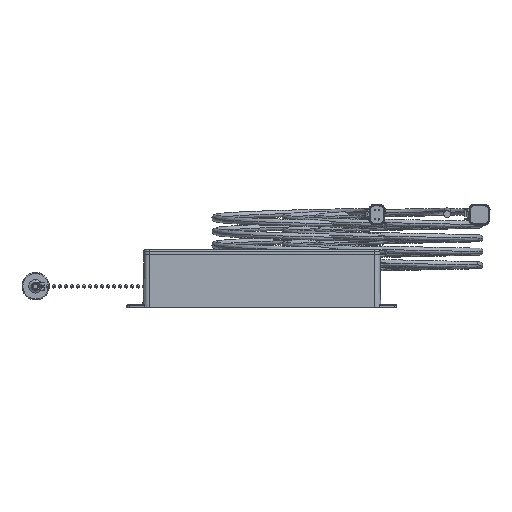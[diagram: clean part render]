
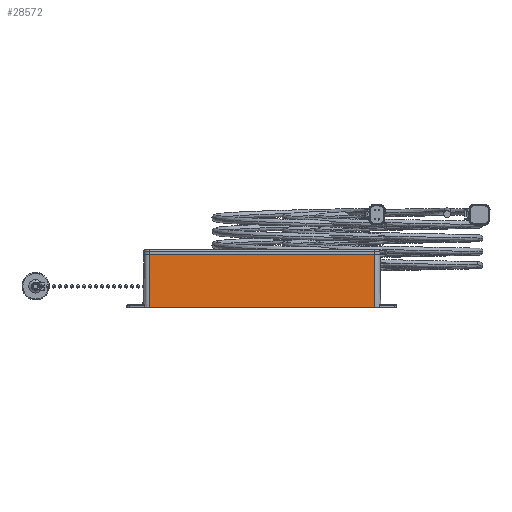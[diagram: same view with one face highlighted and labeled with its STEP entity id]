
A CAD part, left-side view. The second image highlights one B-rep face of the part: STEP entity #28572.
In plain terms, the highlighted planar face has unit normal (-1, 0, 0.018).
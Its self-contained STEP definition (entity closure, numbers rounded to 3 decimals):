
#2684 = CARTESIAN_POINT ( 'NONE',  ( -2.908, 4.183, 0. ) ) ;
#3939 = CARTESIAN_POINT ( 'NONE',  ( -345.825, 4.183, -19645.669 ) ) ;
#3958 = VECTOR ( 'NONE', #18697, 39.37 ) ;
#7125 = EDGE_CURVE ( 'NONE', #8284, #14970, #30770, .T. ) ;
#7402 = VECTOR ( 'NONE', #26098, 39.37 ) ;
#7769 = FACE_OUTER_BOUND ( 'NONE', #25539, .T. ) ;
#8284 = VERTEX_POINT ( 'NONE', #27503 ) ;
#9554 = CARTESIAN_POINT ( 'NONE',  ( -2.874, 0., 1.969 ) ) ;
#9958 = PLANE ( 'NONE',  #19574 ) ;
#10170 = EDGE_CURVE ( 'NONE', #35963, #28748, #39477, .T. ) ;
#12240 = CARTESIAN_POINT ( 'NONE',  ( -2.908, 4.183, 0. ) ) ;
#13116 = DIRECTION ( 'NONE',  ( -1., 0., 0.017 ) ) ;
#13992 = LINE ( 'NONE', #23283, #39889 ) ;
#14970 = VERTEX_POINT ( 'NONE', #29640 ) ;
#15613 = CARTESIAN_POINT ( 'NONE',  ( -2.874, 4.183, 1.969 ) ) ;
#18697 = DIRECTION ( 'NONE',  ( 0., 1., 0. ) ) ;
#19399 = DIRECTION ( 'NONE',  ( -0.017, 0., -1. ) ) ;
#19574 = AXIS2_PLACEMENT_3D ( 'NONE', #9554, #13116, #19399 ) ;
#20725 = CARTESIAN_POINT ( 'NONE',  ( -2.874, -4.183, 1.969 ) ) ;
#20818 = EDGE_CURVE ( 'NONE', #14970, #28748, #13992, .T. ) ;
#23283 = CARTESIAN_POINT ( 'NONE',  ( -2.874, 0., 1.969 ) ) ;
#25539 = EDGE_LOOP ( 'NONE', ( #37922, #39525, #32485, #35924 ) ) ;
#26078 = DIRECTION ( 'NONE',  ( 0., 1., 0. ) ) ;
#26098 = DIRECTION ( 'NONE',  ( 0.017, 0., 1. ) ) ;
#27503 = CARTESIAN_POINT ( 'NONE',  ( -2.908, -4.183, 0. ) ) ;
#28572 = ADVANCED_FACE ( 'NONE', ( #7769 ), #9958, .T. ) ;
#28748 = VERTEX_POINT ( 'NONE', #15613 ) ;
#29640 = CARTESIAN_POINT ( 'NONE',  ( -2.874, -4.183, 1.969 ) ) ;
#30770 = LINE ( 'NONE', #20725, #35200 ) ;
#31412 = LINE ( 'NONE', #2684, #3958 ) ;
#32485 = ORIENTED_EDGE ( 'NONE', *, *, #35818, .F. ) ;
#33569 = DIRECTION ( 'NONE',  ( 0.017, 0., 1. ) ) ;
#35200 = VECTOR ( 'NONE', #33569, 39.37 ) ;
#35818 = EDGE_CURVE ( 'NONE', #8284, #35963, #31412, .T. ) ;
#35924 = ORIENTED_EDGE ( 'NONE', *, *, #7125, .T. ) ;
#35963 = VERTEX_POINT ( 'NONE', #12240 ) ;
#37922 = ORIENTED_EDGE ( 'NONE', *, *, #20818, .T. ) ;
#39477 = LINE ( 'NONE', #3939, #7402 ) ;
#39525 = ORIENTED_EDGE ( 'NONE', *, *, #10170, .F. ) ;
#39889 = VECTOR ( 'NONE', #26078, 39.37 ) ;
